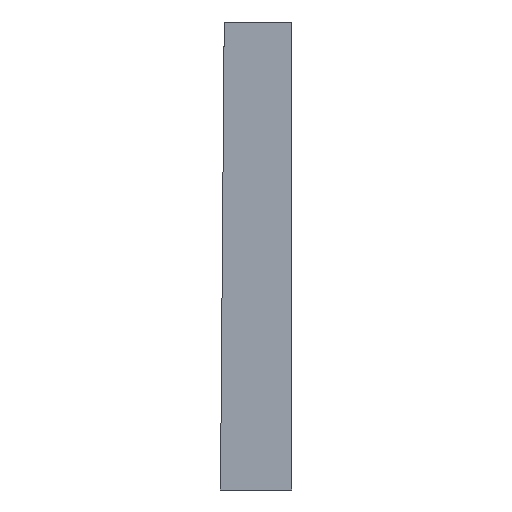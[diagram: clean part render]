
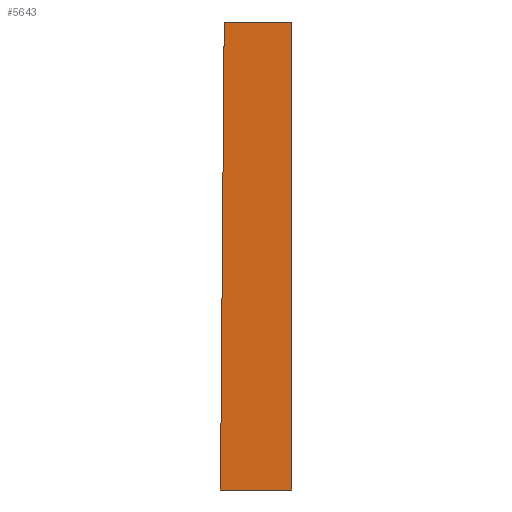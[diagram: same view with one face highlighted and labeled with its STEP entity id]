
A CAD part, left-side view. The second image highlights one B-rep face of the part: STEP entity #5643.
In plain terms, the highlighted planar face has unit normal (-1, 0, 0).
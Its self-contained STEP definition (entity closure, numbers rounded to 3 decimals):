
#29 = FACE_OUTER_BOUND ( 'NONE', #4016, .T. ) ;
#412 = LINE ( 'NONE', #17463, #2357 ) ;
#2214 = LINE ( 'NONE', #31810, #30920 ) ;
#2357 = VECTOR ( 'NONE', #2832, 1000. ) ;
#2832 = DIRECTION ( 'NONE',  ( 0., 0.008, -1. ) ) ;
#3257 = DIRECTION ( 'NONE',  ( 0., 0., 1. ) ) ;
#3468 = DIRECTION ( 'NONE',  ( 0., 0., -1. ) ) ;
#3488 = LINE ( 'NONE', #13399, #11200 ) ;
#3940 = CARTESIAN_POINT ( 'NONE',  ( -660.69, 2.989, 164.661 ) ) ;
#4016 = EDGE_LOOP ( 'NONE', ( #23350, #26082, #11987, #15911 ) ) ;
#5643 = ADVANCED_FACE ( 'NONE', ( #29 ), #17404, .T. ) ;
#10413 = DIRECTION ( 'NONE',  ( -1., 0., 0. ) ) ;
#11105 = LINE ( 'NONE', #3940, #16185 ) ;
#11200 = VECTOR ( 'NONE', #20735, 1000. ) ;
#11987 = ORIENTED_EDGE ( 'NONE', *, *, #12107, .T. ) ;
#12107 = EDGE_CURVE ( 'NONE', #13228, #24776, #2214, .T. ) ;
#12226 = EDGE_CURVE ( 'NONE', #17948, #13228, #412, .T. ) ;
#12676 = CARTESIAN_POINT ( 'NONE',  ( -660.69, 2.989, 164.661 ) ) ;
#13228 = VERTEX_POINT ( 'NONE', #15877 ) ;
#13399 = CARTESIAN_POINT ( 'NONE',  ( -660.69, 1305.65, 164.661 ) ) ;
#14856 = DIRECTION ( 'NONE',  ( 0., -1., 0. ) ) ;
#15495 = EDGE_CURVE ( 'NONE', #17948, #17178, #3488, .T. ) ;
#15877 = CARTESIAN_POINT ( 'NONE',  ( -660.69, 52.299, -160.07 ) ) ;
#15911 = ORIENTED_EDGE ( 'NONE', *, *, #30188, .F. ) ;
#16185 = VECTOR ( 'NONE', #3468, 1000. ) ;
#17178 = VERTEX_POINT ( 'NONE', #12676 ) ;
#17404 = PLANE ( 'NONE',  #28409 ) ;
#17463 = CARTESIAN_POINT ( 'NONE',  ( -660.69, 49.806, 152.663 ) ) ;
#17948 = VERTEX_POINT ( 'NONE', #22040 ) ;
#20735 = DIRECTION ( 'NONE',  ( 0., -1., 0. ) ) ;
#22040 = CARTESIAN_POINT ( 'NONE',  ( -660.69, 49.711, 164.661 ) ) ;
#23350 = ORIENTED_EDGE ( 'NONE', *, *, #15495, .F. ) ;
#24776 = VERTEX_POINT ( 'NONE', #25658 ) ;
#25658 = CARTESIAN_POINT ( 'NONE',  ( -660.69, 2.989, -160.07 ) ) ;
#26082 = ORIENTED_EDGE ( 'NONE', *, *, #12226, .T. ) ;
#27350 = CARTESIAN_POINT ( 'NONE',  ( -660.69, 1305.65, 164.661 ) ) ;
#28409 = AXIS2_PLACEMENT_3D ( 'NONE', #27350, #10413, #3257 ) ;
#30188 = EDGE_CURVE ( 'NONE', #17178, #24776, #11105, .T. ) ;
#30920 = VECTOR ( 'NONE', #14856, 1000. ) ;
#31810 = CARTESIAN_POINT ( 'NONE',  ( -660.69, 1305.65, -160.07 ) ) ;
